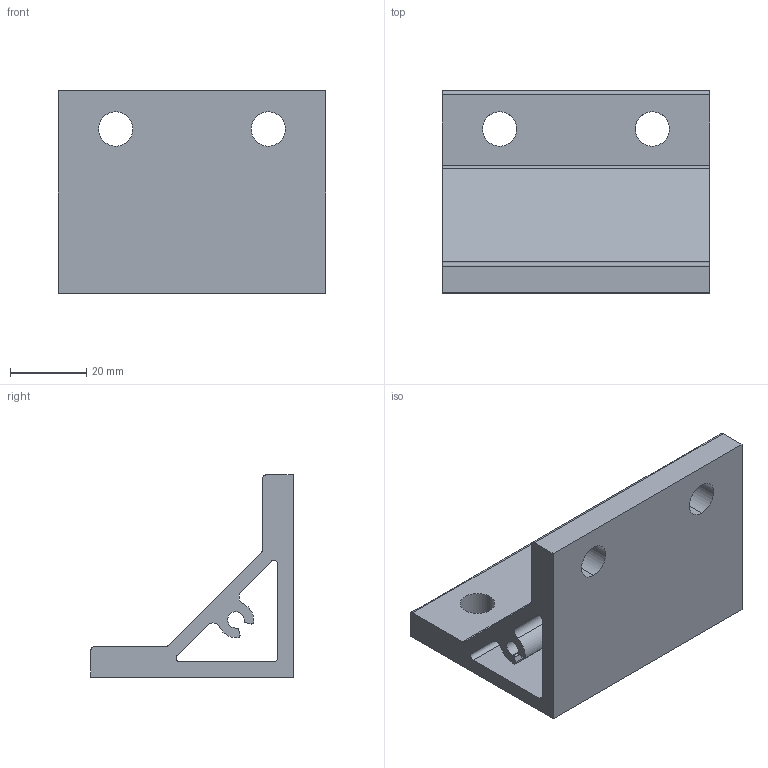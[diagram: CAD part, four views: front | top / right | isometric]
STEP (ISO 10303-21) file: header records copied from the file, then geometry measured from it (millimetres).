
FILE_DESCRIPTION (( 'STEP AP214' ), '1' );
FILE_NAME ('J4ARWN.step', '2017-05-24T07:41:01', ( 'admin' ), ( '' ), 'SwSTEP 2.0', 'SolidWorks 2014', '' );
FILE_SCHEMA (( 'AUTOMOTIVE_DESIGN' ));
Length unit declared in the file: millimetre
Products named in the file (1): J4ARWN
Bounding box: 70 x 53 x 53 mm (x, y, z)
Volume: 50802.3 mm3; surface area: 23634.2 mm2
Topology: 1 solids, 1 shells, 44 faces, 126 edges, 84 vertices
Faces by surface type: cylinder 29, plane 15
Entity records: 1522 total; most frequent: DIRECTION 274, CARTESIAN_POINT 255, ORIENTED_EDGE 252, EDGE_CURVE 126, AXIS2_PLACEMENT_3D 103, VERTEX_POINT 84, LINE 68, VECTOR 68
